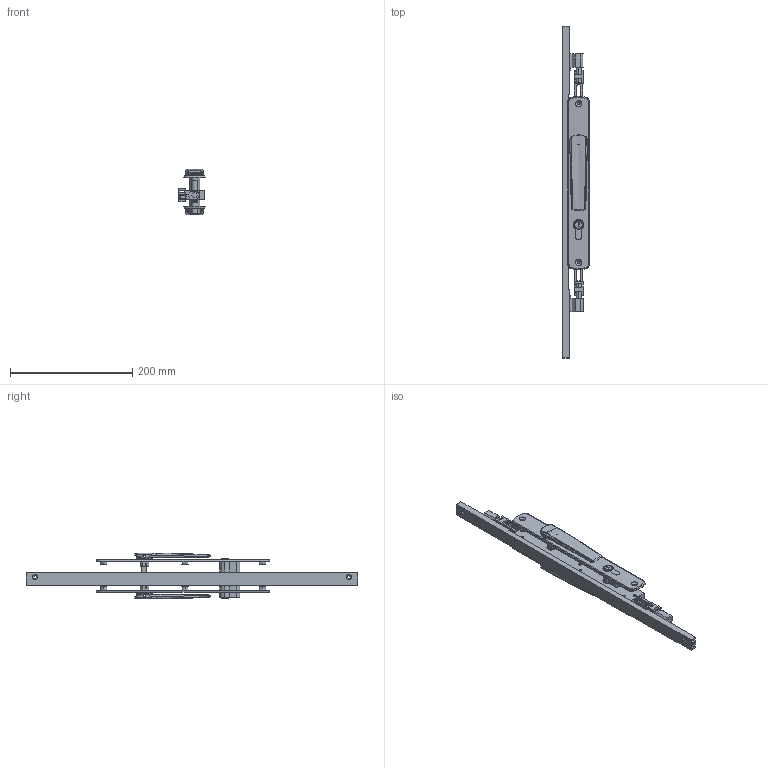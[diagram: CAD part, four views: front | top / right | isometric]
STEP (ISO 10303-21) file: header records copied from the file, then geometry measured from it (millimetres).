
FILE_DESCRIPTION (( 'STEP AP214' ), '1' );
FILE_NAME ('TPL-W-APC-615-L 28Oct2024.STEP', '2024-10-28T03:56:35', ( '' ), ( '' ), 'SwSTEP 2.0', 'SolidWorks 2023', '' );
FILE_SCHEMA (( 'AUTOMOTIVE_DESIGN' ));
Length unit declared in the file: millimetre
Products named in the file (24): Copy of LKC-512 Escutcheon plate keyed internal 285mm long zinc - simplified^Copy (2) of TPGen2 handle keyed internal zinc - simplified_TPL-W-APC-115 18Oct2024; Copy of TPL-021 Lock cylinder double key C4 5 pin 62 (30-32)mm^TPL-W-APC-115 18Oct2024_Left; Copy of LKC-514 Escutcheon plate keyed external 285mm long zinc - simplified^Copy (2) of TPGen2 handle keyed external zinc - simplified_TPL-W-APC-115 18Oct2024; Copy of Copy of Copy of LKC-531 Lock twinpoint transmission rod wood system^TPL-W-APC-115 18Oct2024_Standard Range 2891.7mm; Copy of LKC-505 Swing handle zinc - simplified^Copy (2) of TPGen2 handle keyed internal zinc - simplified_TPL-W-APC-115 18Oct2024; Copy of LKC-585 Rotator body zinc^Copy (2) of TPGen2 handle keyed internal zinc - simplified_TPL-W-APC-115 18Oct2024; Copy of TPLGen2 lock body keyed^Copy of TPLGen2 lock body keyed assembly_TPL-W-APC-115 18Oct2024; Copy of LKC-584 Pivot body zinc - simplified^Copy (2) of TPGen2 handle keyed internal zinc - simplified_TPL-W-APC-115 18Oct2024; TPL-W-APC-615-L 28Oct2024; Copy of LKC-586 Spindle square 8mm with M4 hole^Copy (2) of TPGen2 handle keyed internal zinc - simplified_TPL-W-APC-115 18Oct2024_42mm; Copy of Adapter D - simplfied^TPL-W-APC-115 18Oct2024; Copy (2) of TPGen2 handle keyed internal zinc - simplified^TPL-W-APC-115 18Oct2024_Vertical; Copy of COV-115-C Cover C suit TPLGen2 standard range AU^TPL-W-APC-115 18Oct2024; Bolt.step; Copy of TPLGen2 push rod - simplified^Copy of TPLGen2 lock body keyed assembly_TPL-W-APC-115 18Oct2024_Female thread M10; Copy of COV-115-A Cover A suit TPLGen2 standard range AU with hinge holes^TPL-W-APC-115 18Oct2024_2870mm; Copy of TPLGen2 lock body keyed assembly^TPL-W-APC-115 18Oct2024_Bolts extended; Copy of LKC-505 Swing handle zinc - simplified^Copy (2) of TPGen2 handle keyed external zinc - simplified_TPL-W-APC-115 18Oct2024; Copy of COV-115-B Cover B suit TPLGen2 standard range AU with hinge holes^TPL-W-APC-115 18Oct2024_2870mm; Copy of Copy of LKC-531 Lock twinpoint transmission rod wood system^TPL-W-APC-115 18Oct2024_Standard Range 2891.7mm; Copy of LKC-585 Rotator body zinc^Copy (2) of TPGen2 handle keyed external zinc - simplified_TPL-W-APC-115 18Oct2024; Copy of LKC-584 Pivot body zinc - simplified^Copy (2) of TPGen2 handle keyed external zinc - simplified_TPL-W-APC-115 18Oct2024; Copy of Adapter C - simplfied^TPL-W-APC-115 18Oct2024; Copy (2) of TPGen2 handle keyed external zinc - simplified^TPL-W-APC-115 18Oct2024_Vertical
Assembly tree (21 placements, depth 3):
  TPL-W-APC-615-L 28Oct2024
    Copy of TPLGen2 lock body keyed assembly^TPL-W-APC-115 18Oct2024_Bolts extended
      Copy of TPLGen2 lock body keyed^Copy of TPLGen2 lock body keyed assembly_TPL-W-APC-115 18Oct2024
      Copy of TPLGen2 push rod - simplified^Copy of TPLGen2 lock body keyed assembly_TPL-W-APC-115 18Oct2024_Female thread M10  x2
    Copy (2) of TPGen2 handle keyed external zinc - simplified^TPL-W-APC-115 18Oct2024_Vertical
      Copy of LKC-514 Escutcheon plate keyed external 285mm long zinc - simplified^Copy (2) of TPGen2 handle keyed external zinc - simplified_TPL-W-APC-115 18Oct2024
      Copy of LKC-505 Swing handle zinc - simplified^Copy (2) of TPGen2 handle keyed external zinc - simplified_TPL-W-APC-115 18Oct2024
      Copy of LKC-585 Rotator body zinc^Copy (2) of TPGen2 handle keyed external zinc - simplified_TPL-W-APC-115 18Oct2024
      Copy of LKC-584 Pivot body zinc - simplified^Copy (2) of TPGen2 handle keyed external zinc - simplified_TPL-W-APC-115 18Oct2024
    Copy (2) of TPGen2 handle keyed internal zinc - simplified^TPL-W-APC-115 18Oct2024_Vertical
      Copy of LKC-512 Escutcheon plate keyed internal 285mm long zinc - simplified^Copy (2) of TPGen2 handle keyed internal zinc - simplified_TPL-W-APC-115 18Oct2024
      Copy of LKC-505 Swing handle zinc - simplified^Copy (2) of TPGen2 handle keyed internal zinc - simplified_TPL-W-APC-115 18Oct2024
      Copy of LKC-585 Rotator body zinc^Copy (2) of TPGen2 handle keyed internal zinc - simplified_TPL-W-APC-115 18Oct2024
      Copy of LKC-586 Spindle square 8mm with M4 hole^Copy (2) of TPGen2 handle keyed internal zinc - simplified_TPL-W-APC-115 18Oct2024_42mm
      Copy of LKC-584 Pivot body zinc - simplified^Copy (2) of TPGen2 handle keyed internal zinc - simplified_TPL-W-APC-115 18Oct2024
    Copy of TPL-021 Lock cylinder double key C4 5 pin 62 (30-32)mm^TPL-W-APC-115 18Oct2024_Left
    Copy of COV-115-C Cover C suit TPLGen2 standard range AU^TPL-W-APC-115 18Oct2024
    Copy of Copy of LKC-531 Lock twinpoint transmission rod wood system^TPL-W-APC-115 18Oct2024_Standard Range 2891.7mm
    Copy of Copy of Copy of LKC-531 Lock twinpoint transmission rod wood system^TPL-W-APC-115 18Oct2024_Standard Range 2891.7mm
    Copy of Adapter C - simplfied^TPL-W-APC-115 18Oct2024
    Copy of Adapter D - simplfied^TPL-W-APC-115 18Oct2024
  Bolt.step
  Copy of COV-115-A Cover A suit TPLGen2 standard range AU with hinge holes^TPL-W-APC-115 18Oct2024_2870mm
  Copy of COV-115-B Cover B suit TPLGen2 standard range AU with hinge holes^TPL-W-APC-115 18Oct2024_2870mm
Bounding box: 43.5 x 544 x 74.92 mm (x, y, z)
Volume: 346096 mm3; surface area: 170039.1 mm2
Topology: 18 solids, 18 shells, 1379 faces, 3347 edges, 2046 vertices
Faces by surface type: bspline 417, plane 387, cylinder 329, cone 132, torus 98, sphere 16
Entity records: 51947 total; most frequent: CARTESIAN_POINT 22750, ORIENTED_EDGE 6498, DIRECTION 5259, EDGE_CURVE 3249, AXIS2_PLACEMENT_3D 2039, VERTEX_POINT 1986, EDGE_LOOP 1477, FACE_OUTER_BOUND 1344
